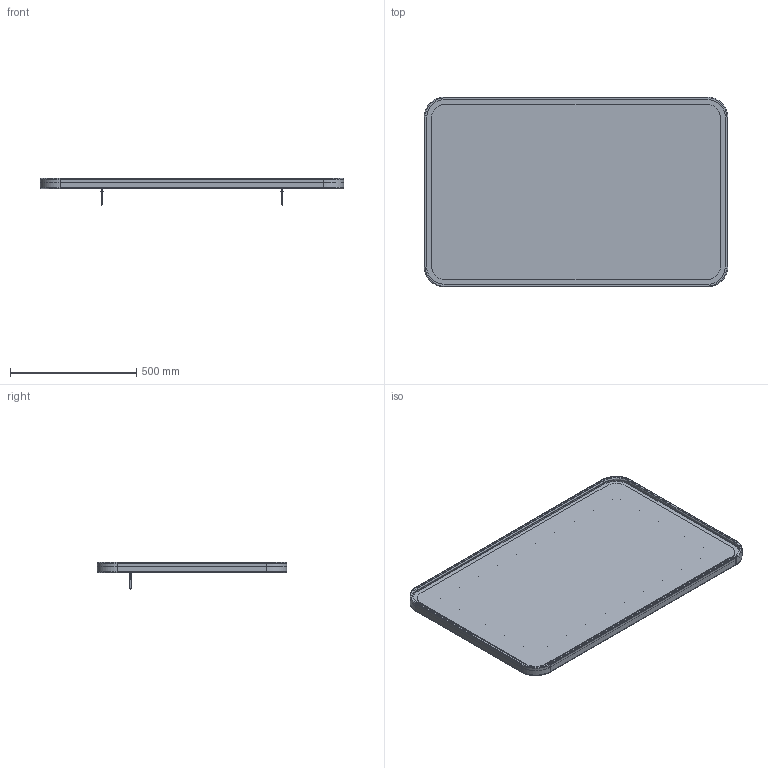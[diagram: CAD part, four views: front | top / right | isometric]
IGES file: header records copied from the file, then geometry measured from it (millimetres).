
Global section: file name: 3D Dosyası (120),; native system: Autodesk Inventor 2024; preprocessor: unknown; author: pc12; date: 20250710.082244; units: millimetre
Bounding box: 1200 x 750 x 107 mm (x, y, z)
Volume: 9769806.5 mm3; surface area: 3224521.7 mm2
Topology: 14 solids, 15 shells, 1150 faces, 2888 edges, 1726 vertices
Faces by surface type: bspline 1150
